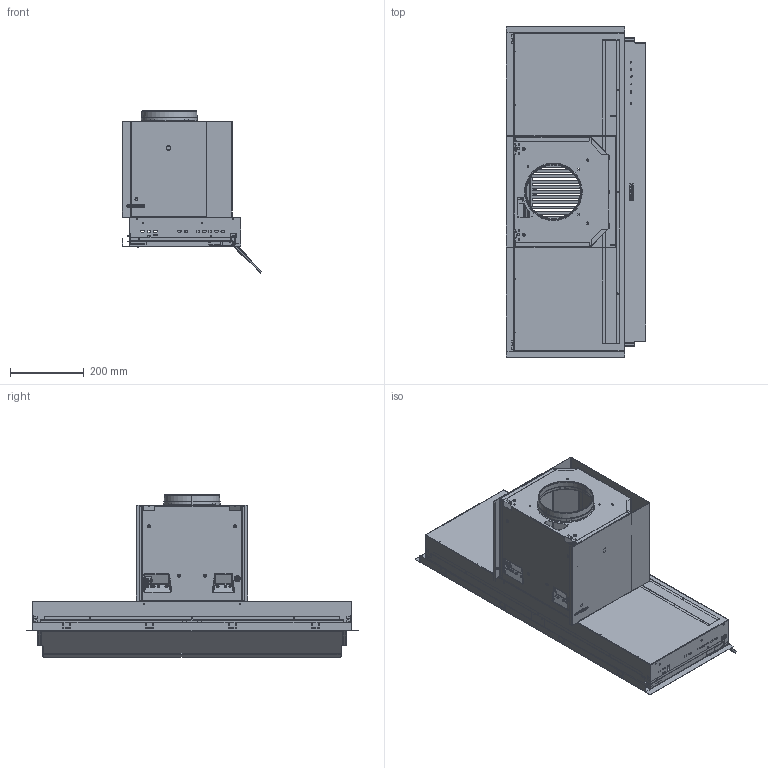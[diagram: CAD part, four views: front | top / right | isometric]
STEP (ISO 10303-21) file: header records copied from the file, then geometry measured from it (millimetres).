
FILE_DESCRIPTION(/* description */ (''),/* implementation_level */ '2;1');
FILE_NAME(/* name */ '3D001_Hoods_Maris_Drip-Free-Built-In',/* time_stamp */ '2024-03-19T11:49:38+01:00',/* author */ (''),/* organization */ (''),/* preprocessor_version */ 'ST-DEVELOPER v19.2',/* originating_system */ 'Rhino 8.4',/* authorisation */ '');
FILE_SCHEMA (('CONFIG_CONTROL_DESIGN'));
Products named in the file (41): Document; ComandiSerigrafia; 04B_212; 15B_127; 04B_726_ASM; 04B_003; 04B_004; 15B_106; 04B_725_ASM; 04B_001; 04B_002; 310_016; 15B_817_ASM; 15B_813_ASM; 15B_121_; 15B_114; 15B_816_ASM; 15B_814_ASM; 15B_113; 15B_112; CWA_029A; 15B_812_ASM; 15B_815_ASM; 15B_119; 15B_807_ASM; 15B_111; CMM_288; CME_759; Blocco 04; 15B_118; D15_710_ASM; A18_804_ASM; A18_155; A18_023; A18_024; 15B_811_ASM; 15B_116; 15B_115; 15B_102; 15B_103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
Bounding box: 377.14 x 898 x 438.91 mm (x, y, z)
Volume: 911643.3 mm3; surface area: 3290103.5 mm2
Topology: 60 solids, 69 shells, 7265 faces, 18727 edges, 11122 vertices
Faces by surface type: plane 4017, cylinder 2244, bspline 1004
Full cylindrical faces by diameter (mm): 1.538 x1, 2.442 x1, 4.525 x1
Entity records: 239172 total; most frequent: CARTESIAN_POINT 107692, ORIENTED_EDGE 31302, EDGE_CURVE 15808, DIRECTION 15228, B_SPLINE_CURVE_WITH_KNOTS 10876, AXIS2_PLACEMENT_3D 10254, VERTEX_POINT 9396, EDGE_LOOP 6814
